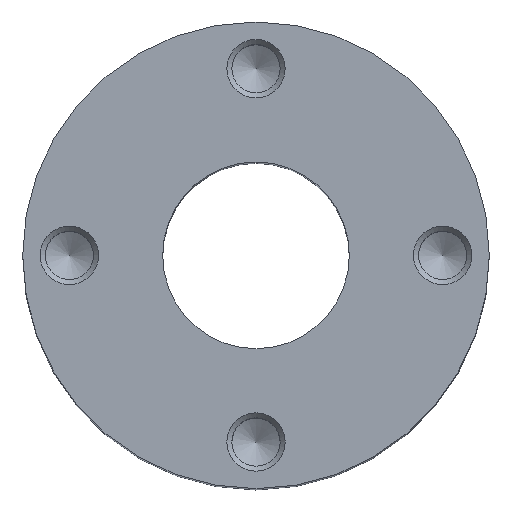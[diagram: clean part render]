
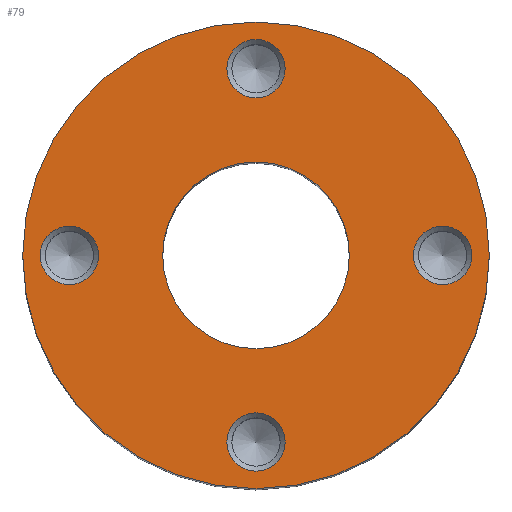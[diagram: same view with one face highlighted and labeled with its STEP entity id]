
A CAD part, top view. The second image highlights one B-rep face of the part: STEP entity #79.
In plain terms, the highlighted planar face has unit normal (0, 0, 1).
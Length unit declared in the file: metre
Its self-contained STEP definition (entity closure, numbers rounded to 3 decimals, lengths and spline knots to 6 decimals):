
#79 = ADVANCED_FACE( '', ( #172, #173, #174, #175, #176, #177 ), #178, .T. );
#172 = FACE_BOUND( '', #267, .T. );
#173 = FACE_BOUND( '', #268, .T. );
#174 = FACE_BOUND( '', #269, .T. );
#175 = FACE_BOUND( '', #270, .T. );
#176 = FACE_OUTER_BOUND( '', #271, .T. );
#177 = FACE_BOUND( '', #272, .T. );
#178 = PLANE( '', #273 );
#267 = EDGE_LOOP( '', ( #390 ) );
#268 = EDGE_LOOP( '', ( #391 ) );
#269 = EDGE_LOOP( '', ( #392 ) );
#270 = EDGE_LOOP( '', ( #393 ) );
#271 = EDGE_LOOP( '', ( #394 ) );
#272 = EDGE_LOOP( '', ( #395 ) );
#273 = AXIS2_PLACEMENT_3D( '', #396, #397, #398 );
#390 = ORIENTED_EDGE( '', *, *, #451, .T. );
#391 = ORIENTED_EDGE( '', *, *, #444, .T. );
#392 = ORIENTED_EDGE( '', *, *, #457, .T. );
#393 = ORIENTED_EDGE( '', *, *, #449, .T. );
#394 = ORIENTED_EDGE( '', *, *, #453, .T. );
#395 = ORIENTED_EDGE( '', *, *, #458, .F. );
#396 = CARTESIAN_POINT( '', ( 0., 0., 0. ) );
#397 = DIRECTION( '', ( 0., 0., 1. ) );
#398 = DIRECTION( '', ( 1., 0., 0. ) );
#444 = EDGE_CURVE( '', #498, #498, #499, .T. );
#449 = EDGE_CURVE( '', #505, #505, #506, .T. );
#451 = EDGE_CURVE( '', #508, #508, #509, .T. );
#453 = EDGE_CURVE( '', #511, #511, #512, .T. );
#457 = EDGE_CURVE( '', #517, #517, #518, .T. );
#458 = EDGE_CURVE( '', #519, #519, #520, .T. );
#498 = VERTEX_POINT( '', #561 );
#499 = CIRCLE( '', #562, 0.0025 );
#505 = VERTEX_POINT( '', #568 );
#506 = CIRCLE( '', #569, 0.0025 );
#508 = VERTEX_POINT( '', #571 );
#509 = CIRCLE( '', #572, 0.0025 );
#511 = VERTEX_POINT( '', #574 );
#512 = CIRCLE( '', #575, 0.02 );
#517 = VERTEX_POINT( '', #580 );
#518 = CIRCLE( '', #581, 0.0025 );
#519 = VERTEX_POINT( '', #582 );
#520 = CIRCLE( '', #583, 0.008 );
#561 = CARTESIAN_POINT( '', ( -0.0185, 0., 0. ) );
#562 = AXIS2_PLACEMENT_3D( '', #625, #626, #627 );
#568 = CARTESIAN_POINT( '', ( 0.0185, 0., 0. ) );
#569 = AXIS2_PLACEMENT_3D( '', #631, #632, #633 );
#571 = CARTESIAN_POINT( '', ( 0., -0.0185, 0. ) );
#572 = AXIS2_PLACEMENT_3D( '', #634, #635, #636 );
#574 = CARTESIAN_POINT( '', ( 0.02, 0., 0. ) );
#575 = AXIS2_PLACEMENT_3D( '', #637, #638, #639 );
#580 = CARTESIAN_POINT( '', ( 0., 0.0185, 0. ) );
#581 = AXIS2_PLACEMENT_3D( '', #643, #644, #645 );
#582 = CARTESIAN_POINT( '', ( 0.008, 0., 0. ) );
#583 = AXIS2_PLACEMENT_3D( '', #646, #647, #648 );
#625 = CARTESIAN_POINT( '', ( -0.016, 0., 0. ) );
#626 = DIRECTION( '', ( 0., 0., -1. ) );
#627 = DIRECTION( '', ( -1., 0., 0. ) );
#631 = CARTESIAN_POINT( '', ( 0.016, 0., 0. ) );
#632 = DIRECTION( '', ( 0., 0., -1. ) );
#633 = DIRECTION( '', ( 1., 0., 0. ) );
#634 = CARTESIAN_POINT( '', ( 0., -0.016, 0. ) );
#635 = DIRECTION( '', ( 0., 0., -1. ) );
#636 = DIRECTION( '', ( 0., -1., 0. ) );
#637 = CARTESIAN_POINT( '', ( 0., 0., 0. ) );
#638 = DIRECTION( '', ( 0., 0., 1. ) );
#639 = DIRECTION( '', ( 1., 0., 0. ) );
#643 = CARTESIAN_POINT( '', ( 0., 0.016, 0. ) );
#644 = DIRECTION( '', ( 0., 0., -1. ) );
#645 = DIRECTION( '', ( 0., 1., 0. ) );
#646 = CARTESIAN_POINT( '', ( 0., 0., 0. ) );
#647 = DIRECTION( '', ( 0., 0., 1. ) );
#648 = DIRECTION( '', ( 1., 0., 0. ) );
